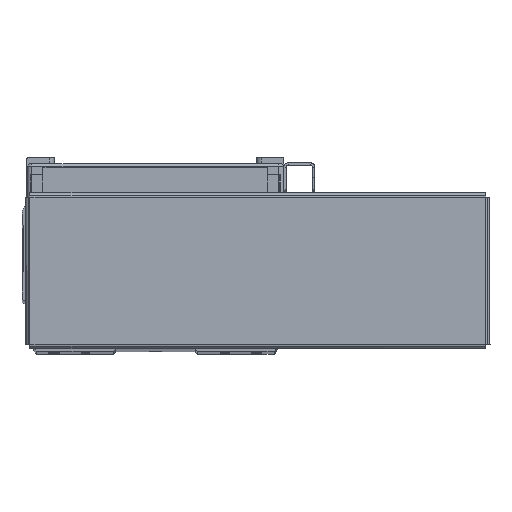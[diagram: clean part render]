
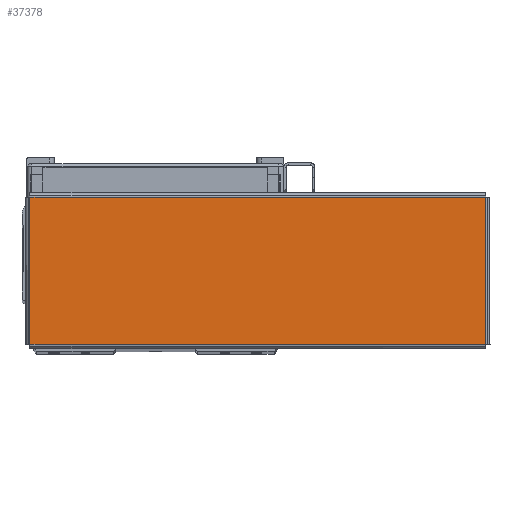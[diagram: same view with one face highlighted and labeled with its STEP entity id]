
A CAD part, top view. The second image highlights one B-rep face of the part: STEP entity #37378.
In plain terms, the highlighted planar face has unit normal (0, 0, 1) as drawn and (0, -1, 0) by its records, which use the part's own axes.
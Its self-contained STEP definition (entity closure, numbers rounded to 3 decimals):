
#1610 = CARTESIAN_POINT ( 'NONE',  ( 92.263, -1., -29.763 ) ) ;
#1682 = CARTESIAN_POINT ( 'NONE',  ( -92.263, -1., -29.763 ) ) ;
#1760 = CARTESIAN_POINT ( 'NONE',  ( 92.263, -1., 29.763 ) ) ;
#7249 = CARTESIAN_POINT ( 'NONE',  ( -92.263, -1., 29.763 ) ) ;
#7703 = DIRECTION ( 'NONE',  ( 1., 0., 0. ) ) ;
#7704 = CARTESIAN_POINT ( 'NONE',  ( -92.293, -1., -29.763 ) ) ;
#7718 = CARTESIAN_POINT ( 'NONE',  ( 92.293, -1., 29.763 ) ) ;
#7722 = DIRECTION ( 'NONE',  ( 0., 0., -1. ) ) ;
#7725 = CARTESIAN_POINT ( 'NONE',  ( -92.263, -1., 29.793 ) ) ;
#7728 = DIRECTION ( 'NONE',  ( -1., 0., 0. ) ) ;
#7841 = CARTESIAN_POINT ( 'NONE',  ( 92.263, -1., -29.793 ) ) ;
#7846 = DIRECTION ( 'NONE',  ( 0., 0., 1. ) ) ;
#11051 = AXIS2_PLACEMENT_3D ( 'NONE', #31590, #31575, #31568 ) ;
#24709 = EDGE_CURVE ( 'NONE', #57413, #57368, #30979, .T. ) ;
#24710 = EDGE_CURVE ( 'NONE', #57410, #57261, #30957, .T. ) ;
#24712 = EDGE_CURVE ( 'NONE', #57261, #57413, #30927, .T. ) ;
#24747 = EDGE_CURVE ( 'NONE', #57368, #57410, #31019, .T. ) ;
#28240 = FACE_OUTER_BOUND ( 'NONE', #42922, .T. ) ;
#30927 = LINE ( 'NONE', #7725, #30950 ) ;
#30950 = VECTOR ( 'NONE', #7722, 1000. ) ;
#30957 = LINE ( 'NONE', #7718, #30980 ) ;
#30976 = VECTOR ( 'NONE', #7703, 1000. ) ;
#30979 = LINE ( 'NONE', #7704, #30976 ) ;
#30980 = VECTOR ( 'NONE', #7728, 1000. ) ;
#31019 = LINE ( 'NONE', #7841, #31040 ) ;
#31040 = VECTOR ( 'NONE', #7846, 1000. ) ;
#31564 = PLANE ( 'NONE',  #11051 ) ;
#31568 = DIRECTION ( 'NONE',  ( 0., 0., 1. ) ) ;
#31575 = DIRECTION ( 'NONE',  ( 0., 1., 0. ) ) ;
#31590 = CARTESIAN_POINT ( 'NONE',  ( 0., -1., 0. ) ) ;
#37378 = ADVANCED_FACE ( 'NONE', ( #28240 ), #31564, .F. ) ;
#42922 = EDGE_LOOP ( 'NONE', ( #49935, #49909, #49955, #49901 ) ) ;
#49901 = ORIENTED_EDGE ( 'NONE', *, *, #24712, .T. ) ;
#49909 = ORIENTED_EDGE ( 'NONE', *, *, #24747, .T. ) ;
#49935 = ORIENTED_EDGE ( 'NONE', *, *, #24709, .T. ) ;
#49955 = ORIENTED_EDGE ( 'NONE', *, *, #24710, .T. ) ;
#57261 = VERTEX_POINT ( 'NONE', #7249 ) ;
#57368 = VERTEX_POINT ( 'NONE', #1610 ) ;
#57410 = VERTEX_POINT ( 'NONE', #1760 ) ;
#57413 = VERTEX_POINT ( 'NONE', #1682 ) ;
